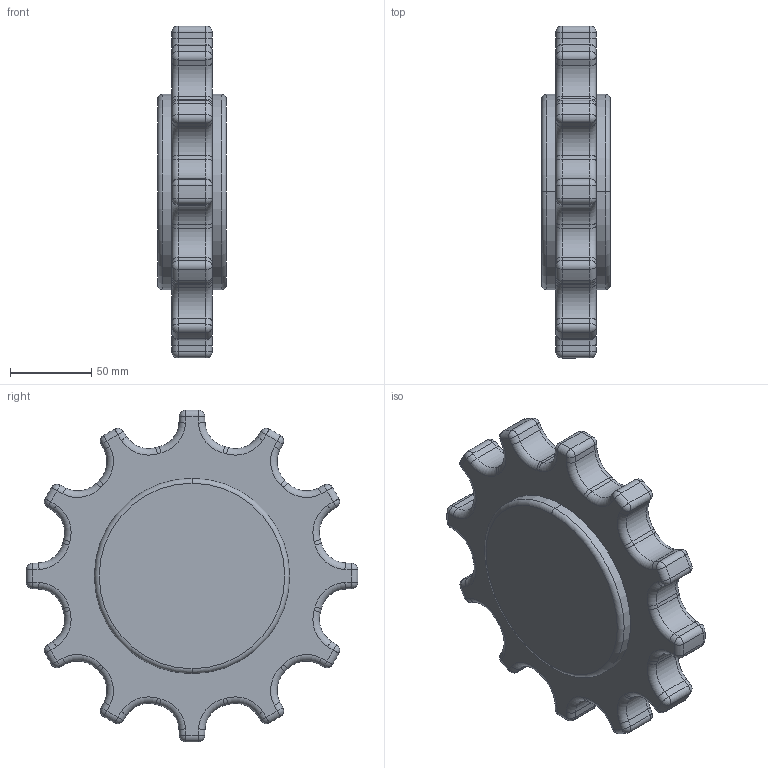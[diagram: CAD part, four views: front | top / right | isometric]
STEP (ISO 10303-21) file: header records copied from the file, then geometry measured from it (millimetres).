
FILE_DESCRIPTION((''),'2;1');
FILE_NAME('UNI_3200_Z12_2W_1R_1P_HUB120','2015-11-23T',('bhe'),(''),'CREO PARAMETRIC BY PTC INC, 2015290','CREO PARAMETRIC BY PTC INC, 2015290','');
FILE_SCHEMA(('CONFIG_CONTROL_DESIGN'));
Length unit declared in the file: millimetre
Products named in the file (1): UNI_3200_Z12_2W_1R_1P_HUB120
Bounding box: 42.3 x 203.98 x 203.98 mm (x, y, z)
Volume: 830324.9 mm3; surface area: 75198.8 mm2
Topology: 1 solids, 1 shells, 300 faces, 644 edges, 348 vertices
Faces by surface type: cylinder 124, torus 100, sphere 48, plane 28
Entity records: 8102 total; most frequent: DIRECTION 1692, CARTESIAN_POINT 1292, ORIENTED_EDGE 1288, AXIS2_PLACEMENT_3D 748, EDGE_CURVE 644, CIRCLE 448, VERTEX_POINT 348, EDGE_LOOP 302
